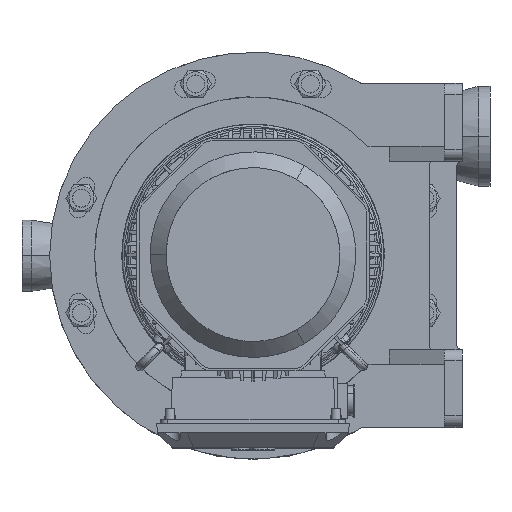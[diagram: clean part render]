
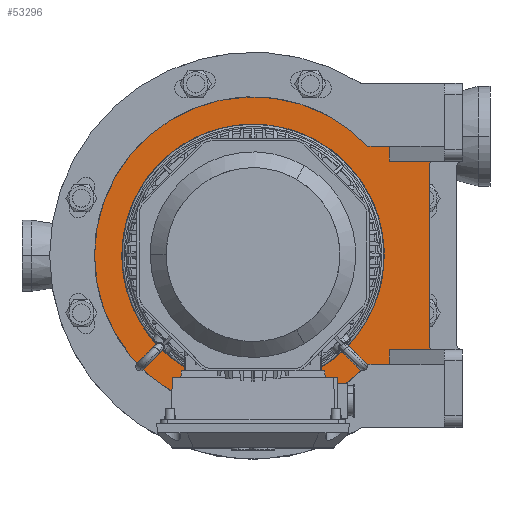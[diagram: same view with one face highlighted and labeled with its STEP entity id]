
A CAD part, top view. The second image highlights one B-rep face of the part: STEP entity #53296.
In plain terms, the highlighted planar face has unit normal (0, 0, 1).
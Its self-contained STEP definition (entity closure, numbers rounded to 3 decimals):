
#50018=CARTESIAN_POINT('',(-212.0,0.,215.0));
#50019=VERTEX_POINT('',#50018);
#50086=CARTESIAN_POINT('',(153.714,-146.,215.0));
#50087=VERTEX_POINT('',#50086);
#50094=CARTESIAN_POINT('',(0.0,0.0,215.0));
#50095=DIRECTION('',(0.0,0.0,-1.0));
#50096=DIRECTION('',(1.0,0.0,0.0));
#50097=AXIS2_PLACEMENT_3D('',#50094,#50095,#50096);
#50098=CIRCLE('',#50097,212.0);
#50099=EDGE_CURVE('',#50087,#50019,#50098,.T.);
#50386=CARTESIAN_POINT('',(-151.5,0.,215.));
#50387=VERTEX_POINT('',#50386);
#50401=CARTESIAN_POINT('',(151.5,0.0,215.));
#50402=VERTEX_POINT('',#50401);
#50409=CARTESIAN_POINT('',(0.0,0.0,215.));
#50410=DIRECTION('',(0.0,0.0,1.0));
#50411=DIRECTION('',(-1.0,0.0,0.0));
#50412=AXIS2_PLACEMENT_3D('',#50409,#50410,#50411);
#50413=CIRCLE('',#50412,151.5);
#50414=EDGE_CURVE('',#50402,#50387,#50413,.T.);
#52646=CARTESIAN_POINT('',(153.714,146.0,215.0));
#52647=VERTEX_POINT('',#52646);
#52654=CARTESIAN_POINT('',(182.569,146.0,215.));
#52655=VERTEX_POINT('',#52654);
#52656=CARTESIAN_POINT('',(153.714,146.0,215.0));
#52657=DIRECTION('',(1.0,0.0,0.0));
#52658=VECTOR('',#52657,28.855);
#52659=LINE('',#52656,#52658);
#52660=EDGE_CURVE('',#52647,#52655,#52659,.T.);
#53115=CARTESIAN_POINT('',(182.569,126.0,215.));
#53116=VERTEX_POINT('',#53115);
#53125=CARTESIAN_POINT('',(182.569,126.0,215.));
#53126=DIRECTION('',(0.0,1.0,0.0));
#53127=VECTOR('',#53126,20.0);
#53128=LINE('',#53125,#53127);
#53129=EDGE_CURVE('',#53116,#52655,#53128,.T.);
#53139=CARTESIAN_POINT('',(182.569,-126.0,215.));
#53140=VERTEX_POINT('',#53139);
#53147=CARTESIAN_POINT('',(182.569,-146.0,215.));
#53148=VERTEX_POINT('',#53147);
#53149=CARTESIAN_POINT('',(182.569,-146.0,215.));
#53150=DIRECTION('',(0.0,1.0,0.0));
#53151=VECTOR('',#53150,20.0);
#53152=LINE('',#53149,#53151);
#53153=EDGE_CURVE('',#53148,#53140,#53152,.T.);
#53211=CARTESIAN_POINT('',(182.569,-146.0,215.));
#53212=DIRECTION('',(-1.0,0.0,0.0));
#53213=VECTOR('',#53212,28.855);
#53214=LINE('',#53211,#53213);
#53215=EDGE_CURVE('',#53148,#50087,#53214,.T.);
#53227=CARTESIAN_POINT('',(19.273,0.,215.));
#53228=DIRECTION('',(0.0,0.0,1.0));
#53229=DIRECTION('',(1.0,0.0,0.0));
#53230=AXIS2_PLACEMENT_3D('',#53227,#53228,#53229);
#53231=PLANE('',#53230);
#53232=ORIENTED_EDGE('',*,*,#53129,.T.);
#53233=ORIENTED_EDGE('',*,*,#52660,.F.);
#53234=CARTESIAN_POINT('',(0.0,0.0,215.0));
#53235=DIRECTION('',(0.0,0.0,-1.0));
#53236=DIRECTION('',(1.0,0.0,0.0));
#53237=AXIS2_PLACEMENT_3D('',#53234,#53235,#53236);
#53238=CIRCLE('',#53237,212.0);
#53239=EDGE_CURVE('',#50019,#52647,#53238,.T.);
#53240=ORIENTED_EDGE('',*,*,#53239,.F.);
#53241=ORIENTED_EDGE('',*,*,#50099,.F.);
#53242=ORIENTED_EDGE('',*,*,#53215,.F.);
#53243=ORIENTED_EDGE('',*,*,#53153,.T.);
#53244=CARTESIAN_POINT('',(241.,-126.,215.0));
#53245=VERTEX_POINT('',#53244);
#53246=CARTESIAN_POINT('',(182.569,-126.0,215.));
#53247=DIRECTION('',(1.0,0.0,0.0));
#53248=VECTOR('',#53247,58.431);
#53249=LINE('',#53246,#53248);
#53250=EDGE_CURVE('',#53140,#53245,#53249,.T.);
#53251=ORIENTED_EDGE('',*,*,#53250,.T.);
#53252=CARTESIAN_POINT('',(236.0,-121.0,215.0));
#53253=VERTEX_POINT('',#53252);
#53254=CARTESIAN_POINT('',(241.,-121.0,215.0));
#53255=DIRECTION('',(0.0,0.0,1.0));
#53256=DIRECTION('',(1.0,0.0,0.0));
#53257=AXIS2_PLACEMENT_3D('',#53254,#53255,#53256);
#53258=CIRCLE('',#53257,5.0);
#53259=EDGE_CURVE('',#53253,#53245,#53258,.T.);
#53260=ORIENTED_EDGE('',*,*,#53259,.F.);
#53261=CARTESIAN_POINT('',(236.0,121.,215.0));
#53262=VERTEX_POINT('',#53261);
#53263=CARTESIAN_POINT('',(236.0,121.,215.0));
#53264=DIRECTION('',(0.0,-1.0,0.0));
#53265=VECTOR('',#53264,242.0);
#53266=LINE('',#53263,#53265);
#53267=EDGE_CURVE('',#53262,#53253,#53266,.T.);
#53268=ORIENTED_EDGE('',*,*,#53267,.F.);
#53269=CARTESIAN_POINT('',(241.,126.,215.0));
#53270=VERTEX_POINT('',#53269);
#53271=CARTESIAN_POINT('',(241.,121.,215.0));
#53272=DIRECTION('',(0.0,0.0,1.0));
#53273=DIRECTION('',(1.0,0.0,0.0));
#53274=AXIS2_PLACEMENT_3D('',#53271,#53272,#53273);
#53275=CIRCLE('',#53274,5.0);
#53276=EDGE_CURVE('',#53270,#53262,#53275,.T.);
#53277=ORIENTED_EDGE('',*,*,#53276,.F.);
#53278=CARTESIAN_POINT('',(241.,126.,215.0));
#53279=DIRECTION('',(-1.0,0.0,0.0));
#53280=VECTOR('',#53279,58.431);
#53281=LINE('',#53278,#53280);
#53282=EDGE_CURVE('',#53270,#53116,#53281,.T.);
#53283=ORIENTED_EDGE('',*,*,#53282,.T.);
#53284=EDGE_LOOP('',(#53232,#53233,#53240,#53241,#53242,#53243,#53251,#53260,#53268,#53277,#53283));
#53285=FACE_OUTER_BOUND('',#53284,.T.);
#53286=ORIENTED_EDGE('',*,*,#50414,.F.);
#53287=CARTESIAN_POINT('',(0.0,0.0,215.));
#53288=DIRECTION('',(0.0,0.0,1.0));
#53289=DIRECTION('',(-1.0,0.0,0.0));
#53290=AXIS2_PLACEMENT_3D('',#53287,#53288,#53289);
#53291=CIRCLE('',#53290,151.5);
#53292=EDGE_CURVE('',#50387,#50402,#53291,.T.);
#53293=ORIENTED_EDGE('',*,*,#53292,.F.);
#53294=EDGE_LOOP('',(#53286,#53293));
#53295=FACE_BOUND('',#53294,.T.);
#53296=ADVANCED_FACE('',(#53285,#53295),#53231,.T.);
